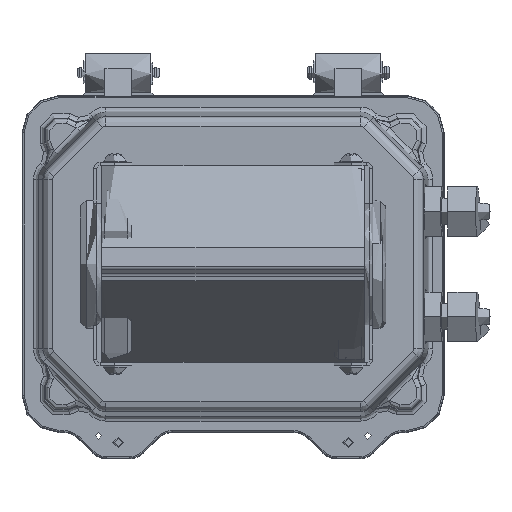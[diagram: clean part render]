
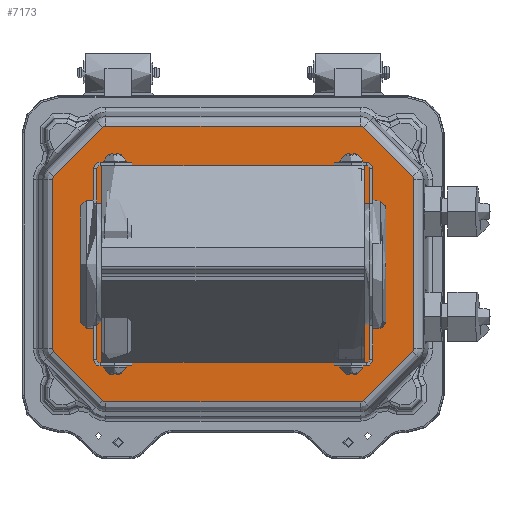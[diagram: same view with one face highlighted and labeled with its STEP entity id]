
A CAD part, front view. The second image highlights one B-rep face of the part: STEP entity #7173.
In plain terms, the highlighted planar face has unit normal (0, -1, 0).
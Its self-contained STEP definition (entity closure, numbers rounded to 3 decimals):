
#7173=ADVANCED_FACE('',(#24201,#24203),#24205,.F.);
#24201=FACE_BOUND('',#24202,.T.);
#24202=EDGE_LOOP('',(#35256,#35257,#35258,#35259,#35260,#35261,#35262,#35263,#35264,
#35265,#35266,#35267,#35268,#35269,#35270,#35271));
#24203=FACE_BOUND('',#24204,.T.);
#24204=EDGE_LOOP('',(#35272,#35273,#35274,#35275,#35276,#35277,#35278,#35279));
#24205=PLANE('',#24206);
#24206=AXIS2_PLACEMENT_3D('',#24207,#24208,#24209);
#24207=CARTESIAN_POINT('',(0.,79.272,0.));
#24208=DIRECTION('',(0.,1.,0.));
#24209=DIRECTION('',(0.,0.,-1.));
#35256=ORIENTED_EDGE('',*,*,#40062,.T.);
#35257=ORIENTED_EDGE('',*,*,#40060,.T.);
#35258=ORIENTED_EDGE('',*,*,#40043,.T.);
#35259=ORIENTED_EDGE('',*,*,#40041,.T.);
#35260=ORIENTED_EDGE('',*,*,#40127,.T.);
#35261=ORIENTED_EDGE('',*,*,#40125,.T.);
#35262=ORIENTED_EDGE('',*,*,#40114,.T.);
#35263=ORIENTED_EDGE('',*,*,#40107,.T.);
#35264=ORIENTED_EDGE('',*,*,#40105,.T.);
#35265=ORIENTED_EDGE('',*,*,#40104,.T.);
#35266=ORIENTED_EDGE('',*,*,#40093,.T.);
#35267=ORIENTED_EDGE('',*,*,#40086,.T.);
#35268=ORIENTED_EDGE('',*,*,#40084,.T.);
#35269=ORIENTED_EDGE('',*,*,#40082,.T.);
#35270=ORIENTED_EDGE('',*,*,#40071,.T.);
#35271=ORIENTED_EDGE('',*,*,#40064,.T.);
#35272=ORIENTED_EDGE('',*,*,#40244,.T.);
#35273=ORIENTED_EDGE('',*,*,#40245,.T.);
#35274=ORIENTED_EDGE('',*,*,#40246,.T.);
#35275=ORIENTED_EDGE('',*,*,#40247,.T.);
#35276=ORIENTED_EDGE('',*,*,#40248,.T.);
#35277=ORIENTED_EDGE('',*,*,#40249,.T.);
#35278=ORIENTED_EDGE('',*,*,#40250,.T.);
#35279=ORIENTED_EDGE('',*,*,#40251,.T.);
#40041=EDGE_CURVE('',#43613,#43611,#43614,.F.);
#40043=EDGE_CURVE('',#43616,#43613,#43617,.T.);
#40060=EDGE_CURVE('',#43639,#43616,#43641,.F.);
#40062=EDGE_CURVE('',#43642,#43639,#43644,.T.);
#40064=EDGE_CURVE('',#43645,#43642,#43647,.F.);
#40071=EDGE_CURVE('',#43655,#43645,#43657,.T.);
#40082=EDGE_CURVE('',#43671,#43655,#43673,.F.);
#40084=EDGE_CURVE('',#43674,#43671,#43676,.T.);
#40086=EDGE_CURVE('',#43677,#43674,#43679,.F.);
#40093=EDGE_CURVE('',#43687,#43677,#43689,.T.);
#40104=EDGE_CURVE('',#43703,#43687,#43705,.F.);
#40105=EDGE_CURVE('',#43706,#43703,#43707,.T.);
#40107=EDGE_CURVE('',#43709,#43706,#43710,.F.);
#40114=EDGE_CURVE('',#43719,#43709,#43720,.T.);
#40125=EDGE_CURVE('',#43735,#43719,#43736,.F.);
#40127=EDGE_CURVE('',#43611,#43735,#43738,.T.);
#40244=EDGE_CURVE('',#43875,#43876,#43877,.T.);
#40245=EDGE_CURVE('',#43876,#43878,#43879,.F.);
#40246=EDGE_CURVE('',#43878,#43880,#43881,.T.);
#40247=EDGE_CURVE('',#43880,#43882,#43883,.F.);
#40248=EDGE_CURVE('',#43882,#43884,#43885,.T.);
#40249=EDGE_CURVE('',#43884,#43886,#43887,.F.);
#40250=EDGE_CURVE('',#43886,#43888,#43889,.T.);
#40251=EDGE_CURVE('',#43888,#43875,#43890,.F.);
#43611=VERTEX_POINT('',#51509);
#43613=VERTEX_POINT('',#51514);
#43614=CIRCLE('',#51515,1.162);
#43616=VERTEX_POINT('',#51523);
#43617=LINE('',#51524,#51525);
#43639=VERTEX_POINT('',#51635);
#43641=CIRCLE('',#51640,1.162);
#43642=VERTEX_POINT('',#51644);
#43644=LINE('',#51649,#51650);
#43645=VERTEX_POINT('',#51652);
#43647=CIRCLE('',#51657,1.162);
#43655=VERTEX_POINT('',#51725);
#43657=LINE('',#51730,#51731);
#43671=VERTEX_POINT('',#51771);
#43673=CIRCLE('',#51776,1.162);
#43674=VERTEX_POINT('',#51780);
#43676=LINE('',#51785,#51786);
#43677=VERTEX_POINT('',#51788);
#43679=CIRCLE('',#51793,1.162);
#43687=VERTEX_POINT('',#51860);
#43689=LINE('',#51865,#51866);
#43703=VERTEX_POINT('',#51906);
#43705=CIRCLE('',#51911,1.162);
#43706=VERTEX_POINT('',#51915);
#43707=LINE('',#51916,#51917);
#43709=VERTEX_POINT('',#51923);
#43710=CIRCLE('',#51924,1.162);
#43719=VERTEX_POINT('',#51995);
#43720=LINE('',#51996,#51997);
#43735=VERTEX_POINT('',#52041);
#43736=CIRCLE('',#52042,1.162);
#43738=LINE('',#52050,#52051);
#43875=VERTEX_POINT('',#52441);
#43876=VERTEX_POINT('',#52442);
#43877=CIRCLE('',#52443,3.);
#43878=VERTEX_POINT('',#52447);
#43879=LINE('',#52448,#52449);
#43880=VERTEX_POINT('',#52451);
#43881=CIRCLE('',#52452,3.);
#43882=VERTEX_POINT('',#52456);
#43883=LINE('',#52457,#52458);
#43884=VERTEX_POINT('',#52460);
#43885=CIRCLE('',#52461,3.);
#43886=VERTEX_POINT('',#52465);
#43887=LINE('',#52466,#52467);
#43888=VERTEX_POINT('',#52469);
#43889=CIRCLE('',#52470,3.);
#43890=LINE('',#52474,#52475);
#51509=CARTESIAN_POINT('',(54.912,79.272,-25.8));
#51514=CARTESIAN_POINT('',(54.571,79.272,-26.621));
#51515=AXIS2_PLACEMENT_3D('',#51516,#51517,#51518);
#51516=CARTESIAN_POINT('',(53.75,79.272,-25.8));
#51517=DIRECTION('',(0.,1.,0.));
#51518=DIRECTION('',(1.,0.,0.));
#51523=CARTESIAN_POINT('',(39.621,79.272,-41.571));
#51524=CARTESIAN_POINT('',(39.621,79.272,-41.571));
#51525=VECTOR('',#51526,1.);
#51526=DIRECTION('',(0.707,0.,0.707));
#51635=CARTESIAN_POINT('',(38.8,79.272,-41.912));
#51640=AXIS2_PLACEMENT_3D('',#51641,#51642,#51643);
#51641=CARTESIAN_POINT('',(38.8,79.272,-40.75));
#51642=DIRECTION('',(0.,1.,0.));
#51643=DIRECTION('',(0.707,0.,-0.707));
#51644=CARTESIAN_POINT('',(-38.8,79.272,-41.912));
#51649=CARTESIAN_POINT('',(-38.8,79.272,-41.912));
#51650=VECTOR('',#51651,1.);
#51651=DIRECTION('',(1.,0.,0.));
#51652=CARTESIAN_POINT('',(-39.621,79.272,-41.571));
#51657=AXIS2_PLACEMENT_3D('',#51658,#51659,#51660);
#51658=CARTESIAN_POINT('',(-38.8,79.272,-40.75));
#51659=DIRECTION('',(0.,1.,0.));
#51660=DIRECTION('',(0.,0.,-1.));
#51725=CARTESIAN_POINT('',(-54.571,79.272,-26.621));
#51730=CARTESIAN_POINT('',(-54.571,79.272,-26.621));
#51731=VECTOR('',#51732,1.);
#51732=DIRECTION('',(0.707,0.,-0.707));
#51771=CARTESIAN_POINT('',(-54.912,79.272,-25.8));
#51776=AXIS2_PLACEMENT_3D('',#51777,#51778,#51779);
#51777=CARTESIAN_POINT('',(-53.75,79.272,-25.8));
#51778=DIRECTION('',(0.,1.,0.));
#51779=DIRECTION('',(-0.707,0.,-0.707));
#51780=CARTESIAN_POINT('',(-54.912,79.272,25.8));
#51785=CARTESIAN_POINT('',(-54.912,79.272,25.8));
#51786=VECTOR('',#51787,1.);
#51787=DIRECTION('',(0.,0.,-1.));
#51788=CARTESIAN_POINT('',(-54.571,79.272,26.621));
#51793=AXIS2_PLACEMENT_3D('',#51794,#51795,#51796);
#51794=CARTESIAN_POINT('',(-53.75,79.272,25.8));
#51795=DIRECTION('',(0.,1.,0.));
#51796=DIRECTION('',(-1.,0.,0.));
#51860=CARTESIAN_POINT('',(-39.621,79.272,41.571));
#51865=CARTESIAN_POINT('',(-39.621,79.272,41.571));
#51866=VECTOR('',#51867,1.);
#51867=DIRECTION('',(-0.707,0.,-0.707));
#51906=CARTESIAN_POINT('',(-38.8,79.272,41.912));
#51911=AXIS2_PLACEMENT_3D('',#51912,#51913,#51914);
#51912=CARTESIAN_POINT('',(-38.8,79.272,40.75));
#51913=DIRECTION('',(0.,1.,0.));
#51914=DIRECTION('',(-0.707,0.,0.707));
#51915=CARTESIAN_POINT('',(38.8,79.272,41.912));
#51916=CARTESIAN_POINT('',(38.8,79.272,41.912));
#51917=VECTOR('',#51918,1.);
#51918=DIRECTION('',(-1.,0.,0.));
#51923=CARTESIAN_POINT('',(39.621,79.272,41.571));
#51924=AXIS2_PLACEMENT_3D('',#51925,#51926,#51927);
#51925=CARTESIAN_POINT('',(38.8,79.272,40.75));
#51926=DIRECTION('',(0.,1.,0.));
#51927=DIRECTION('',(0.,0.,1.));
#51995=CARTESIAN_POINT('',(54.571,79.272,26.621));
#51996=CARTESIAN_POINT('',(54.571,79.272,26.621));
#51997=VECTOR('',#51998,1.);
#51998=DIRECTION('',(-0.707,0.,0.707));
#52041=CARTESIAN_POINT('',(54.912,79.272,25.8));
#52042=AXIS2_PLACEMENT_3D('',#52043,#52044,#52045);
#52043=CARTESIAN_POINT('',(53.75,79.272,25.8));
#52044=DIRECTION('',(0.,1.,0.));
#52045=DIRECTION('',(0.707,0.,0.707));
#52050=CARTESIAN_POINT('',(54.912,79.272,-25.8));
#52051=VECTOR('',#52052,1.);
#52052=DIRECTION('',(0.,0.,1.));
#52441=CARTESIAN_POINT('',(26.5,79.272,29.5));
#52442=CARTESIAN_POINT('',(29.5,79.272,26.5));
#52443=AXIS2_PLACEMENT_3D('',#52444,#52445,#52446);
#52444=CARTESIAN_POINT('',(26.5,79.272,26.5));
#52445=DIRECTION('',(0.,1.,0.));
#52446=DIRECTION('',(0.,0.,1.));
#52447=CARTESIAN_POINT('',(29.5,79.272,-26.5));
#52448=CARTESIAN_POINT('',(29.5,79.272,-26.5));
#52449=VECTOR('',#52450,1.);
#52450=DIRECTION('',(0.,0.,1.));
#52451=CARTESIAN_POINT('',(26.5,79.272,-29.5));
#52452=AXIS2_PLACEMENT_3D('',#52453,#52454,#52455);
#52453=CARTESIAN_POINT('',(26.5,79.272,-26.5));
#52454=DIRECTION('',(0.,1.,0.));
#52455=DIRECTION('',(1.,0.,0.));
#52456=CARTESIAN_POINT('',(-26.5,79.272,-29.5));
#52457=CARTESIAN_POINT('',(-26.5,79.272,-29.5));
#52458=VECTOR('',#52459,1.);
#52459=DIRECTION('',(1.,0.,0.));
#52460=CARTESIAN_POINT('',(-29.5,79.272,-26.5));
#52461=AXIS2_PLACEMENT_3D('',#52462,#52463,#52464);
#52462=CARTESIAN_POINT('',(-26.5,79.272,-26.5));
#52463=DIRECTION('',(0.,1.,0.));
#52464=DIRECTION('',(0.,0.,-1.));
#52465=CARTESIAN_POINT('',(-29.5,79.272,26.5));
#52466=CARTESIAN_POINT('',(-29.5,79.272,26.5));
#52467=VECTOR('',#52468,1.);
#52468=DIRECTION('',(0.,0.,-1.));
#52469=CARTESIAN_POINT('',(-26.5,79.272,29.5));
#52470=AXIS2_PLACEMENT_3D('',#52471,#52472,#52473);
#52471=CARTESIAN_POINT('',(-26.5,79.272,26.5));
#52472=DIRECTION('',(0.,1.,0.));
#52473=DIRECTION('',(-1.,0.,0.));
#52474=CARTESIAN_POINT('',(26.5,79.272,29.5));
#52475=VECTOR('',#52476,1.);
#52476=DIRECTION('',(-1.,0.,0.));
